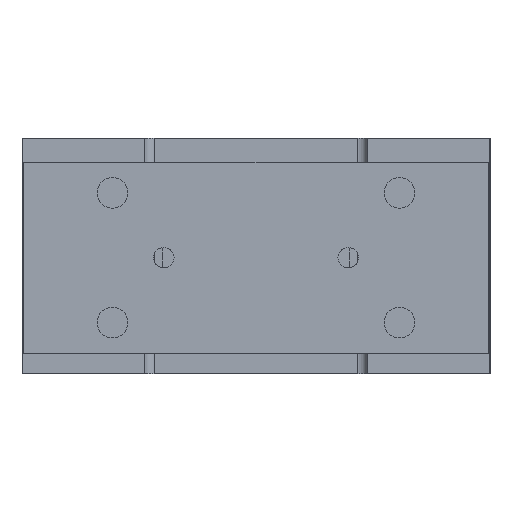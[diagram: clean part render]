
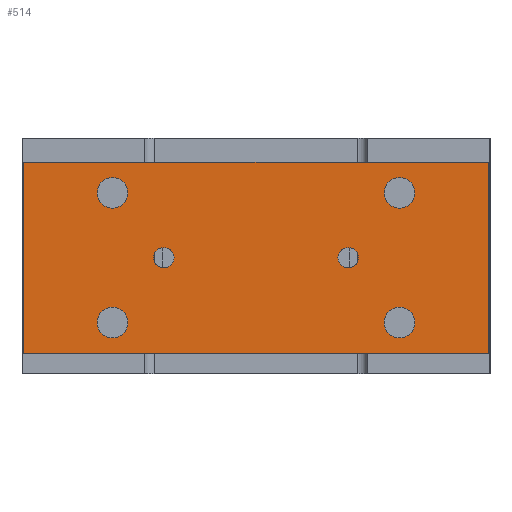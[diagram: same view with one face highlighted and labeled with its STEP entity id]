
A CAD part, left-side view. The second image highlights one B-rep face of the part: STEP entity #514.
In plain terms, the highlighted planar face has unit normal (-1, 0, 0).
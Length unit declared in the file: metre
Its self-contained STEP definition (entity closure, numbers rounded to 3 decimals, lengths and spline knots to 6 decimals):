
#514 = ADVANCED_FACE( '', ( #1213, #1214, #1215, #1216, #1217, #1218, #1219 ), #1220, .T. );
#1213 = FACE_BOUND( '', #2069, .T. );
#1214 = FACE_BOUND( '', #2070, .T. );
#1215 = FACE_BOUND( '', #2071, .T. );
#1216 = FACE_BOUND( '', #2072, .T. );
#1217 = FACE_BOUND( '', #2073, .T. );
#1218 = FACE_BOUND( '', #2074, .T. );
#1219 = FACE_OUTER_BOUND( '', #2075, .T. );
#1220 = PLANE( '', #2076 );
#2069 = EDGE_LOOP( '', ( #3380 ) );
#2070 = EDGE_LOOP( '', ( #3381 ) );
#2071 = EDGE_LOOP( '', ( #3382 ) );
#2072 = EDGE_LOOP( '', ( #3383 ) );
#2073 = EDGE_LOOP( '', ( #3384 ) );
#2074 = EDGE_LOOP( '', ( #3385 ) );
#2075 = EDGE_LOOP( '', ( #3386, #3387, #3388, #3389 ) );
#2076 = AXIS2_PLACEMENT_3D( '', #3390, #3391, #3392 );
#3380 = ORIENTED_EDGE( '', *, *, #4481, .F. );
#3381 = ORIENTED_EDGE( '', *, *, #4121, .F. );
#3382 = ORIENTED_EDGE( '', *, *, #4235, .F. );
#3383 = ORIENTED_EDGE( '', *, *, #4482, .F. );
#3384 = ORIENTED_EDGE( '', *, *, #4104, .F. );
#3385 = ORIENTED_EDGE( '', *, *, #4437, .T. );
#3386 = ORIENTED_EDGE( '', *, *, #4483, .T. );
#3387 = ORIENTED_EDGE( '', *, *, #4386, .T. );
#3388 = ORIENTED_EDGE( '', *, *, #4484, .T. );
#3389 = ORIENTED_EDGE( '', *, *, #4326, .T. );
#3390 = CARTESIAN_POINT( '', ( -0.1025, -0.068, -0.007 ) );
#3391 = DIRECTION( '', ( -1., 0., 0. ) );
#3392 = DIRECTION( '', ( 0., 0., 1. ) );
#4104 = EDGE_CURVE( '', #4742, #4742, #4743, .T. );
#4121 = EDGE_CURVE( '', #4770, #4770, #4771, .T. );
#4235 = EDGE_CURVE( '', #4953, #4953, #4954, .T. );
#4326 = EDGE_CURVE( '', #5096, #5094, #5097, .T. );
#4386 = EDGE_CURVE( '', #5189, #5187, #5190, .T. );
#4437 = EDGE_CURVE( '', #5264, #5264, #5265, .T. );
#4481 = EDGE_CURVE( '', #5323, #5323, #5324, .T. );
#4482 = EDGE_CURVE( '', #5325, #5325, #5326, .T. );
#4483 = EDGE_CURVE( '', #5094, #5189, #5327, .T. );
#4484 = EDGE_CURVE( '', #5187, #5096, #5328, .T. );
#4742 = VERTEX_POINT( '', #5681 );
#4743 = CIRCLE( '', #5682, 0.003 );
#4770 = VERTEX_POINT( '', #5716 );
#4771 = CIRCLE( '', #5717, 0.0045 );
#4953 = VERTEX_POINT( '', #5982 );
#4954 = CIRCLE( '', #5983, 0.0045 );
#5094 = VERTEX_POINT( '', #6222 );
#5096 = VERTEX_POINT( '', #6225 );
#5097 = LINE( '', #6226, #6227 );
#5187 = VERTEX_POINT( '', #6338 );
#5189 = VERTEX_POINT( '', #6341 );
#5190 = LINE( '', #6342, #6343 );
#5264 = VERTEX_POINT( '', #6497 );
#5265 = CIRCLE( '', #6498, 0.003 );
#5323 = VERTEX_POINT( '', #6564 );
#5324 = CIRCLE( '', #6565, 0.0045 );
#5325 = VERTEX_POINT( '', #6566 );
#5326 = CIRCLE( '', #6567, 0.0045 );
#5327 = LINE( '', #6568, #6569 );
#5328 = LINE( '', #6570, #6571 );
#5681 = CARTESIAN_POINT( '', ( -0.1025, -0.024, -0.035 ) );
#5682 = AXIS2_PLACEMENT_3D( '', #6922, #6923, #6924 );
#5716 = CARTESIAN_POINT( '', ( -0.1025, 0.0375, -0.054 ) );
#5717 = AXIS2_PLACEMENT_3D( '', #6944, #6945, #6946 );
#5982 = CARTESIAN_POINT( '', ( -0.1025, -0.0465, -0.016 ) );
#5983 = AXIS2_PLACEMENT_3D( '', #7090, #7091, #7092 );
#6222 = CARTESIAN_POINT( '', ( -0.1025, -0.068, -0.063 ) );
#6225 = CARTESIAN_POINT( '', ( -0.1025, 0.068, -0.063 ) );
#6226 = CARTESIAN_POINT( '', ( -0.1025, 0.068, -0.063 ) );
#6227 = VECTOR( '', #7202, 1. );
#6338 = CARTESIAN_POINT( '', ( -0.1025, 0.068, -0.007 ) );
#6341 = CARTESIAN_POINT( '', ( -0.1025, -0.068, -0.007 ) );
#6342 = CARTESIAN_POINT( '', ( -0.1025, -0.068, -0.007 ) );
#6343 = VECTOR( '', #7288, 1. );
#6497 = CARTESIAN_POINT( '', ( -0.1025, 0.024, -0.035 ) );
#6498 = AXIS2_PLACEMENT_3D( '', #7351, #7352, #7353 );
#6564 = CARTESIAN_POINT( '', ( -0.1025, -0.0465, -0.054 ) );
#6565 = AXIS2_PLACEMENT_3D( '', #7401, #7402, #7403 );
#6566 = CARTESIAN_POINT( '', ( -0.1025, 0.0375, -0.016 ) );
#6567 = AXIS2_PLACEMENT_3D( '', #7404, #7405, #7406 );
#6568 = CARTESIAN_POINT( '', ( -0.1025, -0.068, -0.063 ) );
#6569 = VECTOR( '', #7407, 1. );
#6570 = CARTESIAN_POINT( '', ( -0.1025, 0.068, -0.007 ) );
#6571 = VECTOR( '', #7408, 1. );
#6922 = CARTESIAN_POINT( '', ( -0.1025, -0.027, -0.035 ) );
#6923 = DIRECTION( '', ( -1., 0., 0. ) );
#6924 = DIRECTION( '', ( 0., 1., 0. ) );
#6944 = CARTESIAN_POINT( '', ( -0.1025, 0.042, -0.054 ) );
#6945 = DIRECTION( '', ( -1., 0., 0. ) );
#6946 = DIRECTION( '', ( 0., -1., 0. ) );
#7090 = CARTESIAN_POINT( '', ( -0.1025, -0.042, -0.016 ) );
#7091 = DIRECTION( '', ( -1., 0., 0. ) );
#7092 = DIRECTION( '', ( 0., -1., 0. ) );
#7202 = DIRECTION( '', ( 0., -1., 0. ) );
#7288 = DIRECTION( '', ( 0., 1., 0. ) );
#7351 = CARTESIAN_POINT( '', ( -0.1025, 0.027, -0.035 ) );
#7352 = DIRECTION( '', ( 1., 0., 0. ) );
#7353 = DIRECTION( '', ( 0., -1., 0. ) );
#7401 = CARTESIAN_POINT( '', ( -0.1025, -0.042, -0.054 ) );
#7402 = DIRECTION( '', ( -1., 0., 0. ) );
#7403 = DIRECTION( '', ( 0., -1., 0. ) );
#7404 = CARTESIAN_POINT( '', ( -0.1025, 0.042, -0.016 ) );
#7405 = DIRECTION( '', ( -1., 0., 0. ) );
#7406 = DIRECTION( '', ( 0., -1., 0. ) );
#7407 = DIRECTION( '', ( 0., 0., 1. ) );
#7408 = DIRECTION( '', ( 0., 0., -1. ) );
